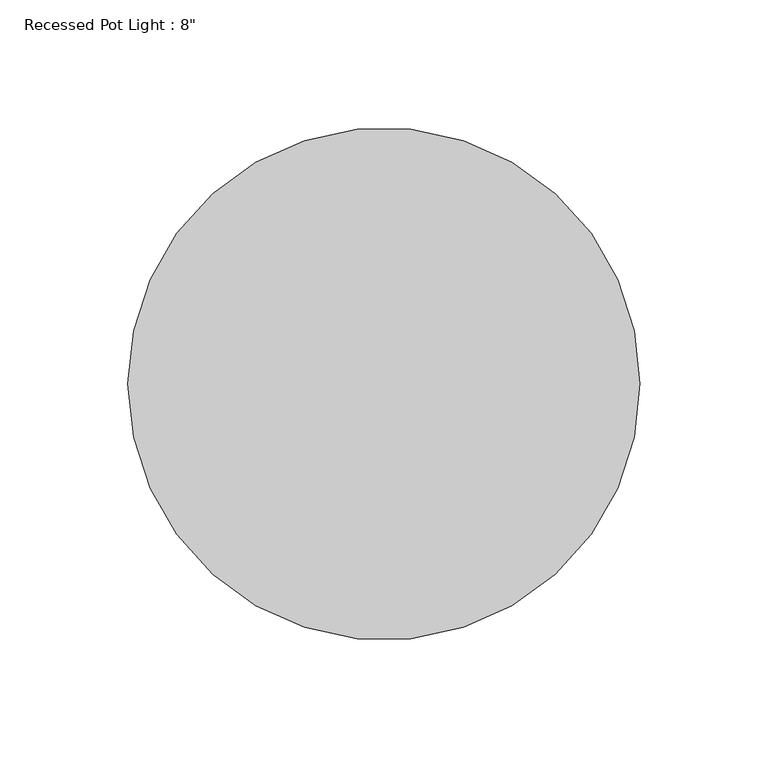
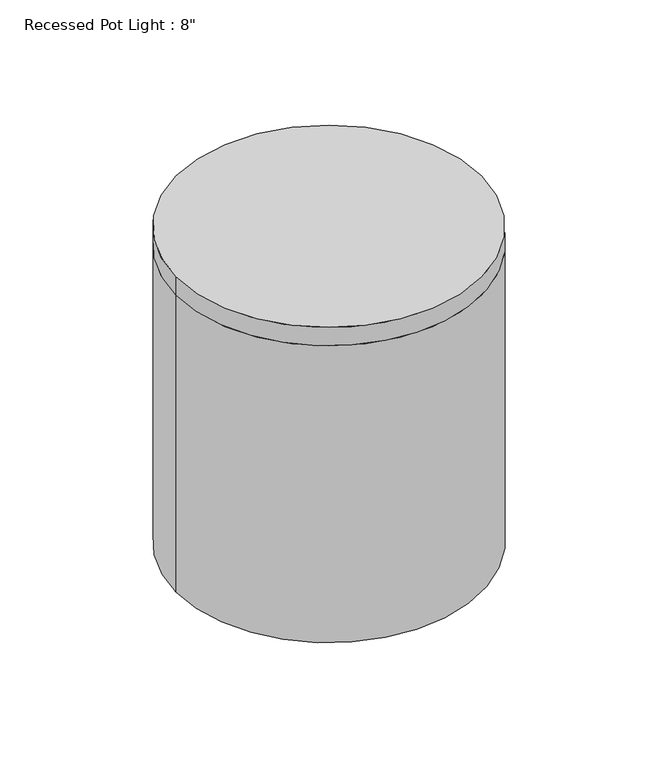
"""IFC4 building model written with IfcOpenShell, lengths in millimetres: light fixture geometry."""

from ifc_helpers import new_model, si_unit, point, frame, origin, origin_2d, place, context, project, spatial, circle_curve, trimmed, segment, composite_curve, outline, extrude, source, transform, mapped, element, save


def light_fixture_643521e1(model_context):
    return source(origin(), model_context, "Body", "SweptSolid", [
        extrude(outline(composite_curve([segment(trimmed(circle_curve(origin_2d(), 100.0), [point((-100.0, 0.0))], [point((100.0, 0.0))], False, "CARTESIAN"), True, "CONTINUOUS"), segment(trimmed(circle_curve(origin_2d(), 100.0), [point((100.0, 0.0))], [point((-100.0, 0.0))], False, "CARTESIAN"), True, "CONTINUOUS")], self_intersect=False)), frame((0.0, 0.0, 2628.9), z_axis=(0.0, 0.0, 1.0), x_axis=(1.0, 0.0, 0.0)), (0.0, 0.0, 1.0), 12.7),
        extrude(outline(composite_curve([segment(trimmed(circle_curve(origin_2d(), 100.0), [point((-100.0, 0.0))], [point((100.0, 0.0))], False, "CARTESIAN"), True, "CONTINUOUS"), segment(trimmed(circle_curve(origin_2d(), 100.0), [point((100.0, 0.0))], [point((-100.0, 0.0))], False, "CARTESIAN"), True, "CONTINUOUS")], self_intersect=False), holes=[composite_curve([segment(trimmed(circle_curve(origin_2d(), 87.3), [point((-87.3, 0.0))], [point((87.3, 0.0))], True, "CARTESIAN"), True, "CONTINUOUS"), segment(trimmed(circle_curve(origin_2d(), 87.3), [point((87.3, 0.0))], [point((-87.3, 0.0))], True, "CARTESIAN"), True, "CONTINUOUS")], self_intersect=False)]), frame((0.0, 0.0, 2423.3053789), z_axis=(0.0, 0.0, 1.0), x_axis=(1.0, 0.0, 0.0)), (0.0, 0.0, 1.0), 205.5946211),
    ])


if __name__ == "__main__":
    model = new_model("IFC4")
    model_context = context("Model", 3, world=origin())
    ifc_project = project(units=[si_unit("LENGTHUNIT", "METRE", prefix="MILLI")], contexts=[model_context])
    site = spatial("IfcSite", under=ifc_project)
    building = spatial("IfcBuilding", under=site)
    placement = place(None, origin())
    light_fixture_shape = light_fixture_643521e1(model_context)
    element("IfcLightFixture", 1, ObjectType="Recessed Pot Light : 8\"", at=placement, inside=building, context=model_context, shape_type="MappedRepresentation", body=[
        mapped(light_fixture_shape, transform((0.0, 0.0, 0.0), x_axis=(1.0, 0.0, 0.0), y_axis=(0.0, 1.0, 0.0), z_axis=(0.0, 0.0, 1.0))),
    ])
    save(model, "model.ifc")
